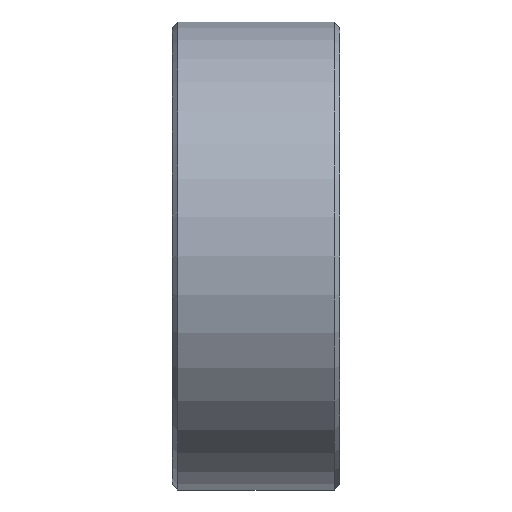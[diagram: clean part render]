
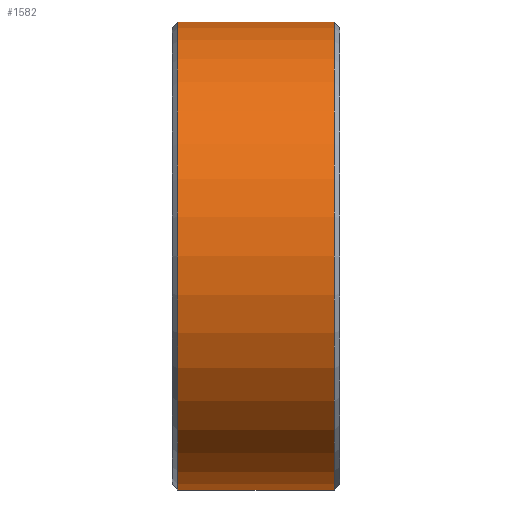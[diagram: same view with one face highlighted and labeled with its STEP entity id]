
A CAD part, front view. The second image highlights one B-rep face of the part: STEP entity #1582.
In plain terms, the highlighted cylindrical face has radius 21 mm (diameter 42 mm), a partial arc.
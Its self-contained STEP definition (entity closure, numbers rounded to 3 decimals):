
#104=LINE('',#2128,#178);
#105=LINE('',#2132,#179);
#178=VECTOR('',#1797,1000.);
#179=VECTOR('',#1800,1000.);
#252=ORIENTED_EDGE('',*,*,#544,.T.);
#253=ORIENTED_EDGE('',*,*,#545,.T.);
#254=ORIENTED_EDGE('',*,*,#546,.F.);
#255=ORIENTED_EDGE('',*,*,#547,.T.);
#544=EDGE_CURVE('',#690,#691,#794,.T.);
#545=EDGE_CURVE('',#691,#692,#104,.T.);
#546=EDGE_CURVE('',#693,#692,#795,.T.);
#547=EDGE_CURVE('',#693,#690,#105,.F.);
#690=VERTEX_POINT('',#2126);
#691=VERTEX_POINT('',#2127);
#692=VERTEX_POINT('',#2129);
#693=VERTEX_POINT('',#2131);
#794=CIRCLE('',#1664,21.);
#795=CIRCLE('',#1665,21.);
#848=EDGE_LOOP('',(#252,#253,#254,#255));
#946=FACE_BOUND('',#848,.T.);
#1048=CYLINDRICAL_SURFACE('',#1663,21.);
#1582=ADVANCED_FACE('',(#946),#1048,.T.);
#1663=AXIS2_PLACEMENT_3D('',#2124,#1793,#1794);
#1664=AXIS2_PLACEMENT_3D('',#2125,#1795,#1796);
#1665=AXIS2_PLACEMENT_3D('',#2130,#1798,#1799);
#1793=DIRECTION('',(1.,0.,0.));
#1794=DIRECTION('',(0.,0.,-1.));
#1795=DIRECTION('',(1.,0.,0.));
#1796=DIRECTION('',(0.,0.,-1.));
#1797=DIRECTION('',(1.,0.,0.));
#1798=DIRECTION('',(1.,0.,0.));
#1799=DIRECTION('',(0.,0.,-1.));
#1800=DIRECTION('',(1.,0.,0.));
#2124=CARTESIAN_POINT('',(7.5,0.,0.));
#2125=CARTESIAN_POINT('',(-7.,0.,0.));
#2126=CARTESIAN_POINT('',(-7.,-1.5,20.946));
#2127=CARTESIAN_POINT('',(-7.,-1.5,-20.946));
#2128=CARTESIAN_POINT('',(7.5,-1.5,-20.946));
#2129=CARTESIAN_POINT('',(7.,-1.5,-20.946));
#2130=CARTESIAN_POINT('',(7.,0.,0.));
#2131=CARTESIAN_POINT('',(7.,-1.5,20.946));
#2132=CARTESIAN_POINT('',(7.5,-1.5,20.946));
